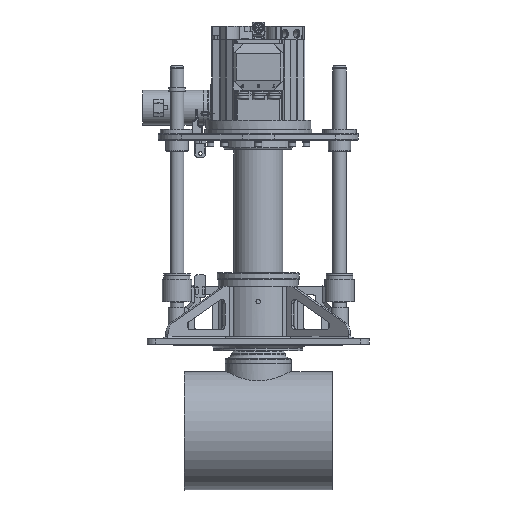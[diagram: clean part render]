
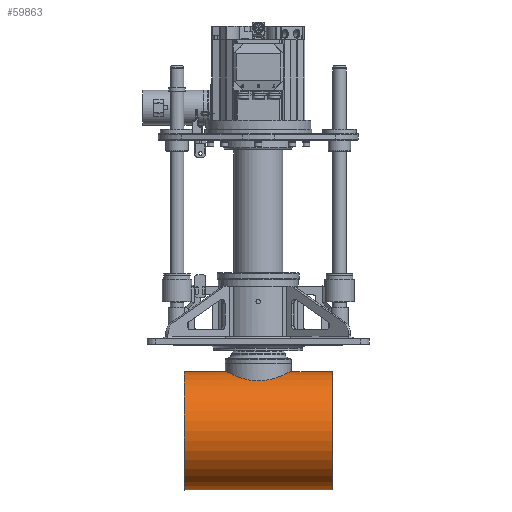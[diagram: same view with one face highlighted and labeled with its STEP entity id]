
A CAD part, front view. The second image highlights one B-rep face of the part: STEP entity #59863.
In plain terms, the highlighted cylindrical face has radius 133 mm (diameter 266 mm), a full revolution.
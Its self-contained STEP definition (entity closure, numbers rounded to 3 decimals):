
#649=B_SPLINE_CURVE_WITH_KNOTS('',3,(#137645,#137646,#137647,#137648,#137649,
#137650,#137651,#137652,#137653,#137654,#137655,#137656,#137657,#137658,
#137659,#137660,#137661,#137662,#137663,#137664,#137665,#137666,#137667,
#137668,#137669,#137670,#137671,#137672,#137673,#137674,#137675,#137676,
#137677,#137678),.UNSPECIFIED.,.F.,.F.,(4,2,2,2,2,2,2,2,2,2,2,2,2,2,2,2,
4),(0.,0.836,1.671,2.507,3.343,
4.178,5.014,5.849,6.684,7.52,
8.355,9.191,10.026,10.862,11.697,
12.533,13.369),.UNSPECIFIED.);
#650=B_SPLINE_CURVE_WITH_KNOTS('',3,(#137679,#137680,#137681,#137682,#137683,
#137684,#137685,#137686,#137687,#137688,#137689,#137690,#137691,#137692,
#137693,#137694,#137695,#137696,#137697,#137698,#137699,#137700,#137701,
#137702,#137703,#137704,#137705,#137706,#137707,#137708,#137709,#137710,
#137711,#137712),.UNSPECIFIED.,.F.,.F.,(4,2,2,2,2,2,2,2,2,2,2,2,2,2,2,2,
4),(13.369,14.205,15.04,15.876,
16.712,17.547,18.383,19.218,20.053,
20.889,21.724,22.56,23.395,24.231,
25.066,25.902,26.738),.UNSPECIFIED.);
#4619=LINE('',#137641,#8761);
#8761=VECTOR('',#79129,133.);
#10616=CYLINDRICAL_SURFACE('',#65347,133.);
#11554=FACE_BOUND('',#17739,.T.);
#14048=FACE_OUTER_BOUND('',#17738,.T.);
#17738=EDGE_LOOP('',(#47739,#47740,#47741,#47742));
#17739=EDGE_LOOP('',(#47743,#47744));
#21014=CIRCLE('',#65348,133.);
#21015=CIRCLE('',#65349,133.);
#25855=VERTEX_POINT('',#137638);
#25856=VERTEX_POINT('',#137640);
#25857=VERTEX_POINT('',#137643);
#25858=VERTEX_POINT('',#137644);
#33437=EDGE_CURVE('',#25855,#25855,#21014,.T.);
#33438=EDGE_CURVE('',#25855,#25856,#4619,.T.);
#33439=EDGE_CURVE('',#25856,#25856,#21015,.T.);
#33440=EDGE_CURVE('',#25857,#25858,#649,.T.);
#33441=EDGE_CURVE('',#25858,#25857,#650,.T.);
#47739=ORIENTED_EDGE('',*,*,#33437,.T.);
#47740=ORIENTED_EDGE('',*,*,#33438,.T.);
#47741=ORIENTED_EDGE('',*,*,#33439,.T.);
#47742=ORIENTED_EDGE('',*,*,#33438,.F.);
#47743=ORIENTED_EDGE('',*,*,#33440,.T.);
#47744=ORIENTED_EDGE('',*,*,#33441,.T.);
#59863=ADVANCED_FACE('',(#14048,#11554),#10616,.T.);
#65347=AXIS2_PLACEMENT_3D('',#137637,#79125,#79126);
#65348=AXIS2_PLACEMENT_3D('',#137639,#79127,#79128);
#65349=AXIS2_PLACEMENT_3D('',#137642,#79130,#79131);
#79125=DIRECTION('center_axis',(1.,0.,0.));
#79126=DIRECTION('ref_axis',(0.,0.,
1.));
#79127=DIRECTION('center_axis',(-1.,0.,0.));
#79128=DIRECTION('ref_axis',(0.,0.,
1.));
#79129=DIRECTION('',(-1.,0.,0.));
#79130=DIRECTION('center_axis',(1.,0.,0.));
#79131=DIRECTION('ref_axis',(0.,0.,
1.));
#137637=CARTESIAN_POINT('Origin',(0.,0.,
-191.9));
#137638=CARTESIAN_POINT('',(166.3,0.,-324.9));
#137639=CARTESIAN_POINT('Origin',(166.3,0.,
-191.9));
#137640=CARTESIAN_POINT('',(-166.3,0.,-324.9));
#137641=CARTESIAN_POINT('',(0.,0.,-324.9));
#137642=CARTESIAN_POINT('Origin',(-166.3,0.,
-191.9));
#137643=CARTESIAN_POINT('',(0.,-44.,-66.389));
#137644=CARTESIAN_POINT('',(0.,44.,-66.389));
#137645=CARTESIAN_POINT('Ctrl Pts',(0.,-44.,
-66.389));
#137646=CARTESIAN_POINT('Ctrl Pts',(-2.786,-44.,
-66.389));
#137647=CARTESIAN_POINT('Ctrl Pts',(-5.659,-43.731,
-66.294));
#137648=CARTESIAN_POINT('Ctrl Pts',(-11.361,-42.607,
-65.908));
#137649=CARTESIAN_POINT('Ctrl Pts',(-14.19,-41.752,
-65.618));
#137650=CARTESIAN_POINT('Ctrl Pts',(-19.603,-39.501,
-64.896));
#137651=CARTESIAN_POINT('Ctrl Pts',(-22.192,-38.103,
-64.464));
#137652=CARTESIAN_POINT('Ctrl Pts',(-26.976,-34.88,
-63.544));
#137653=CARTESIAN_POINT('Ctrl Pts',(-29.171,-33.055,
-63.058));
#137654=CARTESIAN_POINT('Ctrl Pts',(-33.054,-29.172,
-62.123));
#137655=CARTESIAN_POINT('Ctrl Pts',(-34.879,-26.978,
-61.642));
#137656=CARTESIAN_POINT('Ctrl Pts',(-38.102,-22.194,
-60.742));
#137657=CARTESIAN_POINT('Ctrl Pts',(-39.501,-19.603,
-60.324));
#137658=CARTESIAN_POINT('Ctrl Pts',(-41.753,-14.189,
-59.631));
#137659=CARTESIAN_POINT('Ctrl Pts',(-42.608,-11.36,
-59.355));
#137660=CARTESIAN_POINT('Ctrl Pts',(-43.731,-5.658,
-58.99));
#137661=CARTESIAN_POINT('Ctrl Pts',(-44.,-2.785,
-58.9));
#137662=CARTESIAN_POINT('Ctrl Pts',(-44.,2.785,
-58.9));
#137663=CARTESIAN_POINT('Ctrl Pts',(-43.731,5.658,
-58.99));
#137664=CARTESIAN_POINT('Ctrl Pts',(-42.608,11.36,-59.355));
#137665=CARTESIAN_POINT('Ctrl Pts',(-41.753,14.189,
-59.631));
#137666=CARTESIAN_POINT('Ctrl Pts',(-39.501,19.603,
-60.324));
#137667=CARTESIAN_POINT('Ctrl Pts',(-38.102,22.194,
-60.742));
#137668=CARTESIAN_POINT('Ctrl Pts',(-34.879,26.978,-61.642));
#137669=CARTESIAN_POINT('Ctrl Pts',(-33.054,29.172,
-62.123));
#137670=CARTESIAN_POINT('Ctrl Pts',(-29.171,33.055,-63.058));
#137671=CARTESIAN_POINT('Ctrl Pts',(-26.976,34.88,-63.544));
#137672=CARTESIAN_POINT('Ctrl Pts',(-22.192,38.103,
-64.464));
#137673=CARTESIAN_POINT('Ctrl Pts',(-19.603,39.501,
-64.896));
#137674=CARTESIAN_POINT('Ctrl Pts',(-14.19,41.752,
-65.618));
#137675=CARTESIAN_POINT('Ctrl Pts',(-11.361,42.607,
-65.908));
#137676=CARTESIAN_POINT('Ctrl Pts',(-5.659,43.731,
-66.294));
#137677=CARTESIAN_POINT('Ctrl Pts',(-2.786,44.,-66.389));
#137678=CARTESIAN_POINT('Ctrl Pts',(0.,44.,
-66.389));
#137679=CARTESIAN_POINT('Ctrl Pts',(0.,44.,
-66.389));
#137680=CARTESIAN_POINT('Ctrl Pts',(2.786,44.,-66.389));
#137681=CARTESIAN_POINT('Ctrl Pts',(5.659,43.731,-66.294));
#137682=CARTESIAN_POINT('Ctrl Pts',(11.361,42.607,-65.908));
#137683=CARTESIAN_POINT('Ctrl Pts',(14.19,41.752,-65.618));
#137684=CARTESIAN_POINT('Ctrl Pts',(19.603,39.501,-64.896));
#137685=CARTESIAN_POINT('Ctrl Pts',(22.192,38.103,-64.464));
#137686=CARTESIAN_POINT('Ctrl Pts',(26.976,34.88,-63.544));
#137687=CARTESIAN_POINT('Ctrl Pts',(29.171,33.055,-63.058));
#137688=CARTESIAN_POINT('Ctrl Pts',(33.054,29.172,-62.123));
#137689=CARTESIAN_POINT('Ctrl Pts',(34.879,26.978,-61.642));
#137690=CARTESIAN_POINT('Ctrl Pts',(38.102,22.194,-60.742));
#137691=CARTESIAN_POINT('Ctrl Pts',(39.501,19.603,-60.324));
#137692=CARTESIAN_POINT('Ctrl Pts',(41.753,14.189,-59.631));
#137693=CARTESIAN_POINT('Ctrl Pts',(42.608,11.36,-59.355));
#137694=CARTESIAN_POINT('Ctrl Pts',(43.731,5.658,-58.99));
#137695=CARTESIAN_POINT('Ctrl Pts',(44.,2.785,-58.9));
#137696=CARTESIAN_POINT('Ctrl Pts',(44.,-2.785,
-58.9));
#137697=CARTESIAN_POINT('Ctrl Pts',(43.731,-5.658,-58.99));
#137698=CARTESIAN_POINT('Ctrl Pts',(42.608,-11.36,
-59.355));
#137699=CARTESIAN_POINT('Ctrl Pts',(41.753,-14.189,
-59.631));
#137700=CARTESIAN_POINT('Ctrl Pts',(39.501,-19.603,
-60.324));
#137701=CARTESIAN_POINT('Ctrl Pts',(38.102,-22.194,
-60.742));
#137702=CARTESIAN_POINT('Ctrl Pts',(34.879,-26.978,
-61.642));
#137703=CARTESIAN_POINT('Ctrl Pts',(33.054,-29.172,
-62.123));
#137704=CARTESIAN_POINT('Ctrl Pts',(29.171,-33.055,
-63.058));
#137705=CARTESIAN_POINT('Ctrl Pts',(26.976,-34.88,
-63.544));
#137706=CARTESIAN_POINT('Ctrl Pts',(22.192,-38.103,
-64.464));
#137707=CARTESIAN_POINT('Ctrl Pts',(19.603,-39.501,
-64.896));
#137708=CARTESIAN_POINT('Ctrl Pts',(14.19,-41.752,
-65.618));
#137709=CARTESIAN_POINT('Ctrl Pts',(11.361,-42.607,
-65.908));
#137710=CARTESIAN_POINT('Ctrl Pts',(5.659,-43.731,
-66.294));
#137711=CARTESIAN_POINT('Ctrl Pts',(2.786,-44.,
-66.389));
#137712=CARTESIAN_POINT('Ctrl Pts',(0.,-44.,
-66.389));
